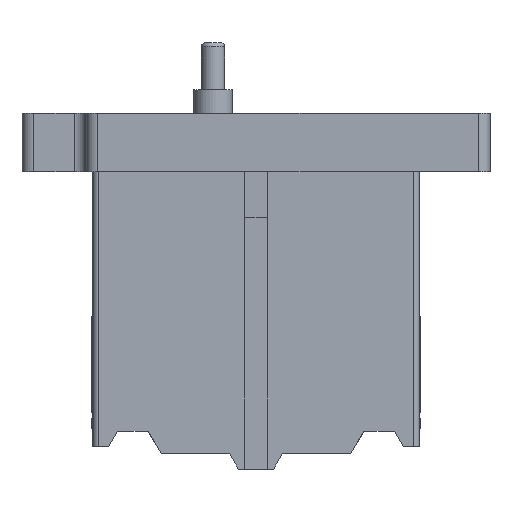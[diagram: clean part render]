
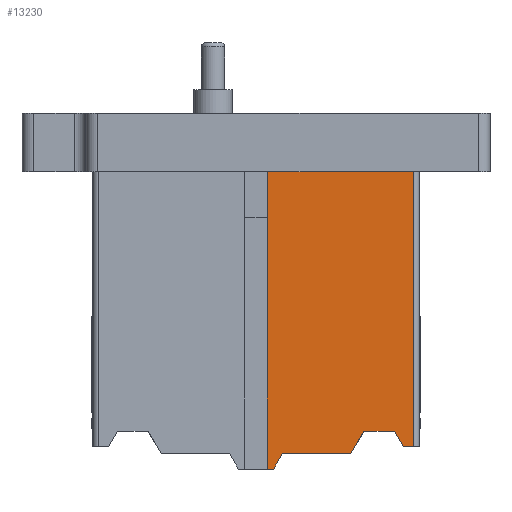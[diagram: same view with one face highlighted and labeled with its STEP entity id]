
A CAD part, left-side view. The second image highlights one B-rep face of the part: STEP entity #13230.
In plain terms, the highlighted planar face has unit normal (-1, 0, 0).
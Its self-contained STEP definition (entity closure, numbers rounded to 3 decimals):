
#13124=CARTESIAN_POINT('',(-42.9,-20.2,-29.4));
#13125=VERTEX_POINT('',#13124);
#13134=CARTESIAN_POINT('',(-42.9,-20.2,5.9));
#13135=VERTEX_POINT('',#13134);
#13143=CARTESIAN_POINT('',(-42.9,-20.2,5.9));
#13144=DIRECTION('',(0.0,0.0,-1.0));
#13145=VECTOR('',#13144,35.3);
#13146=LINE('',#13143,#13145);
#13147=EDGE_CURVE('',#13135,#13125,#13146,.T.);
#13152=CARTESIAN_POINT('',(-42.9,20.9,5.9));
#13153=DIRECTION('',(-1.0,0.0,0.0));
#13154=DIRECTION('',(0.0,0.0,-1.0));
#13155=AXIS2_PLACEMENT_3D('',#13152,#13153,#13154);
#13156=PLANE('',#13155);
#13157=ORIENTED_EDGE('',*,*,#13147,.F.);
#13158=CARTESIAN_POINT('',(-42.9,-1.46,5.9));
#13159=VERTEX_POINT('',#13158);
#13160=CARTESIAN_POINT('',(-42.9,-1.46,5.9));
#13161=DIRECTION('',(0.0,-1.0,0.0));
#13162=VECTOR('',#13161,18.74);
#13163=LINE('',#13160,#13162);
#13164=EDGE_CURVE('',#13159,#13135,#13163,.T.);
#13165=ORIENTED_EDGE('',*,*,#13164,.F.);
#13166=CARTESIAN_POINT('',(-42.9,-1.46,-32.25));
#13167=VERTEX_POINT('',#13166);
#13168=CARTESIAN_POINT('',(-42.9,-1.46,5.9));
#13169=DIRECTION('',(0.0,0.0,-1.0));
#13170=VECTOR('',#13169,38.15);
#13171=LINE('',#13168,#13170);
#13172=EDGE_CURVE('',#13159,#13167,#13171,.T.);
#13173=ORIENTED_EDGE('',*,*,#13172,.T.);
#13174=CARTESIAN_POINT('',(-42.9,-2.25,-32.25));
#13175=VERTEX_POINT('',#13174);
#13176=CARTESIAN_POINT('',(-42.9,-1.46,-32.25));
#13177=DIRECTION('',(0.0,-1.0,0.0));
#13178=VECTOR('',#13177,0.79);
#13179=LINE('',#13176,#13178);
#13180=EDGE_CURVE('',#13167,#13175,#13179,.T.);
#13181=ORIENTED_EDGE('',*,*,#13180,.T.);
#13182=CARTESIAN_POINT('',(-42.9,-3.405,-30.25));
#13183=VERTEX_POINT('',#13182);
#13184=CARTESIAN_POINT('',(-42.9,-2.25,-32.25));
#13185=DIRECTION('',(0.0,-0.5,0.866));
#13186=VECTOR('',#13185,2.309);
#13187=LINE('',#13184,#13186);
#13188=EDGE_CURVE('',#13175,#13183,#13187,.T.);
#13189=ORIENTED_EDGE('',*,*,#13188,.T.);
#13190=CARTESIAN_POINT('',(-42.9,-12.155,-30.25));
#13191=VERTEX_POINT('',#13190);
#13192=CARTESIAN_POINT('',(-42.9,-3.405,-30.25));
#13193=DIRECTION('',(0.0,-1.0,0.0));
#13194=VECTOR('',#13193,8.75);
#13195=LINE('',#13192,#13194);
#13196=EDGE_CURVE('',#13183,#13191,#13195,.T.);
#13197=ORIENTED_EDGE('',*,*,#13196,.T.);
#13198=CARTESIAN_POINT('',(-42.9,-13.8,-27.4));
#13199=VERTEX_POINT('',#13198);
#13200=CARTESIAN_POINT('',(-42.9,-12.155,-30.25));
#13201=DIRECTION('',(0.0,-0.5,0.866));
#13202=VECTOR('',#13201,3.291);
#13203=LINE('',#13200,#13202);
#13204=EDGE_CURVE('',#13191,#13199,#13203,.T.);
#13205=ORIENTED_EDGE('',*,*,#13204,.T.);
#13206=CARTESIAN_POINT('',(-42.9,-17.745,-27.4));
#13207=VERTEX_POINT('',#13206);
#13208=CARTESIAN_POINT('',(-42.9,-13.8,-27.4));
#13209=DIRECTION('',(0.0,-1.0,0.0));
#13210=VECTOR('',#13209,3.945);
#13211=LINE('',#13208,#13210);
#13212=EDGE_CURVE('',#13199,#13207,#13211,.T.);
#13213=ORIENTED_EDGE('',*,*,#13212,.T.);
#13214=CARTESIAN_POINT('',(-42.9,-18.9,-29.4));
#13215=VERTEX_POINT('',#13214);
#13216=CARTESIAN_POINT('',(-42.9,-17.745,-27.4));
#13217=DIRECTION('',(0.0,-0.5,-0.866));
#13218=VECTOR('',#13217,2.309);
#13219=LINE('',#13216,#13218);
#13220=EDGE_CURVE('',#13207,#13215,#13219,.T.);
#13221=ORIENTED_EDGE('',*,*,#13220,.T.);
#13222=CARTESIAN_POINT('',(-42.9,-18.9,-29.4));
#13223=DIRECTION('',(0.0,-1.0,0.0));
#13224=VECTOR('',#13223,1.3);
#13225=LINE('',#13222,#13224);
#13226=EDGE_CURVE('',#13215,#13125,#13225,.T.);
#13227=ORIENTED_EDGE('',*,*,#13226,.T.);
#13228=EDGE_LOOP('',(#13157,#13165,#13173,#13181,#13189,#13197,#13205,#13213,#13221,#13227));
#13229=FACE_OUTER_BOUND('',#13228,.T.);
#13230=ADVANCED_FACE('',(#13229),#13156,.T.);
